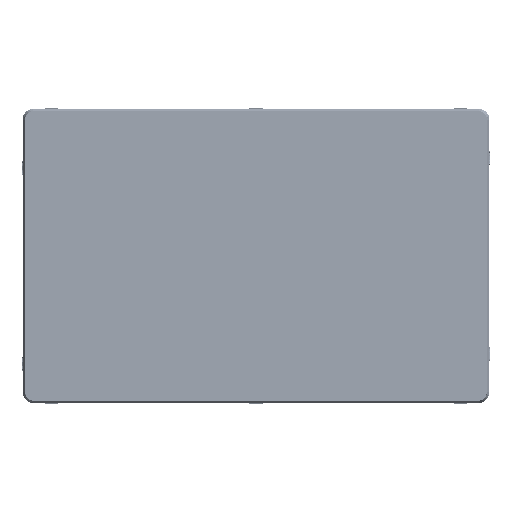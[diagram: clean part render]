
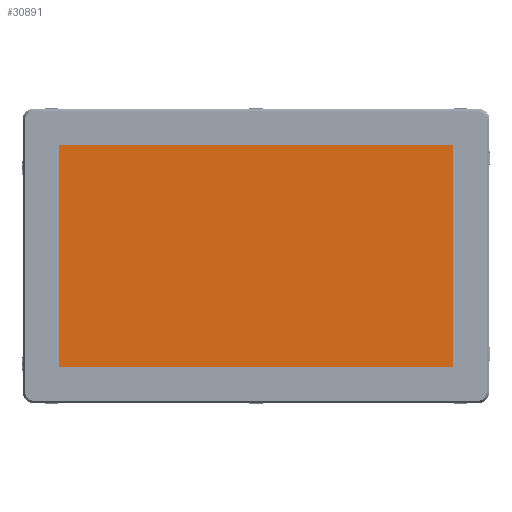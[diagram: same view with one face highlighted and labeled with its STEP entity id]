
A CAD part, top view. The second image highlights one B-rep face of the part: STEP entity #30891.
In plain terms, the highlighted planar face has unit normal (0, 0, 1).
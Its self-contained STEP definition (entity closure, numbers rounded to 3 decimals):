
#4213=FACE_OUTER_BOUND('',#5889,.T.);
#5889=EDGE_LOOP('',(#20893,#20894,#20895,#20896));
#7807=LINE('',#44422,#10499);
#7810=LINE('',#44428,#10502);
#7813=LINE('',#44434,#10505);
#7816=LINE('',#44438,#10508);
#10499=VECTOR('',#36023,10.);
#10502=VECTOR('',#36028,10.);
#10505=VECTOR('',#36033,10.);
#10508=VECTOR('',#36038,10.);
#13191=VERTEX_POINT('',#44419);
#13192=VERTEX_POINT('',#44421);
#13194=VERTEX_POINT('',#44427);
#13196=VERTEX_POINT('',#44433);
#16259=EDGE_CURVE('',#13192,#13191,#7807,.T.);
#16262=EDGE_CURVE('',#13194,#13192,#7810,.T.);
#16265=EDGE_CURVE('',#13196,#13194,#7813,.T.);
#16268=EDGE_CURVE('',#13191,#13196,#7816,.T.);
#20893=ORIENTED_EDGE('',*,*,#16268,.T.);
#20894=ORIENTED_EDGE('',*,*,#16265,.T.);
#20895=ORIENTED_EDGE('',*,*,#16262,.T.);
#20896=ORIENTED_EDGE('',*,*,#16259,.T.);
#30015=PLANE('',#33130);
#30891=ADVANCED_FACE('',(#4213),#30015,.T.);
#33130=AXIS2_PLACEMENT_3D('',#44439,#36039,#36040);
#36023=DIRECTION('',(1.,0.,0.));
#36028=DIRECTION('',(0.,-1.,0.));
#36033=DIRECTION('',(-1.,0.,0.));
#36038=DIRECTION('',(0.,1.,0.));
#36039=DIRECTION('center_axis',(0.,0.,1.));
#36040=DIRECTION('ref_axis',(1.,0.,0.));
#44419=CARTESIAN_POINT('',(172.58,-97.295,0.001));
#44421=CARTESIAN_POINT('',(-172.58,-97.295,0.001));
#44422=CARTESIAN_POINT('',(-172.58,-97.295,0.001));
#44427=CARTESIAN_POINT('',(-172.58,97.295,0.001));
#44428=CARTESIAN_POINT('',(-172.58,97.295,0.001));
#44433=CARTESIAN_POINT('',(172.58,97.295,0.001));
#44434=CARTESIAN_POINT('',(172.58,97.295,0.001));
#44438=CARTESIAN_POINT('',(172.58,-97.295,0.001));
#44439=CARTESIAN_POINT('Origin',(0.,0.,0.001));
